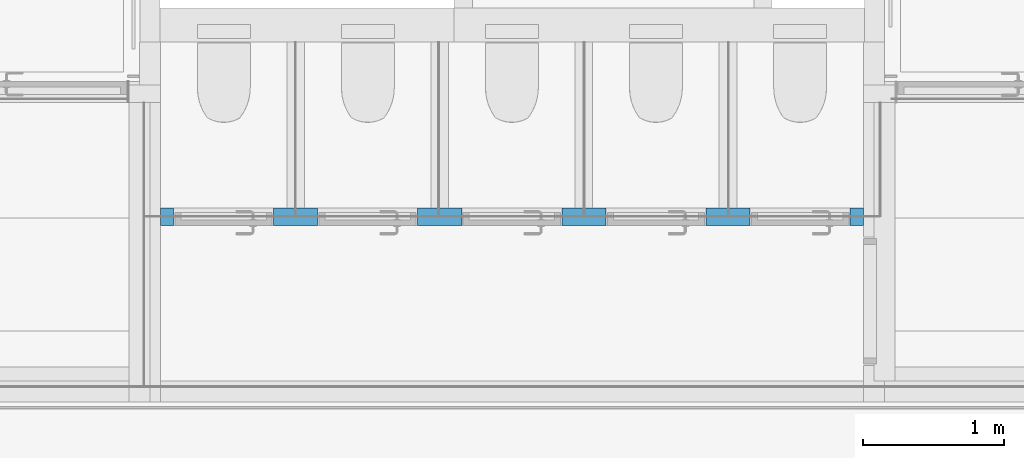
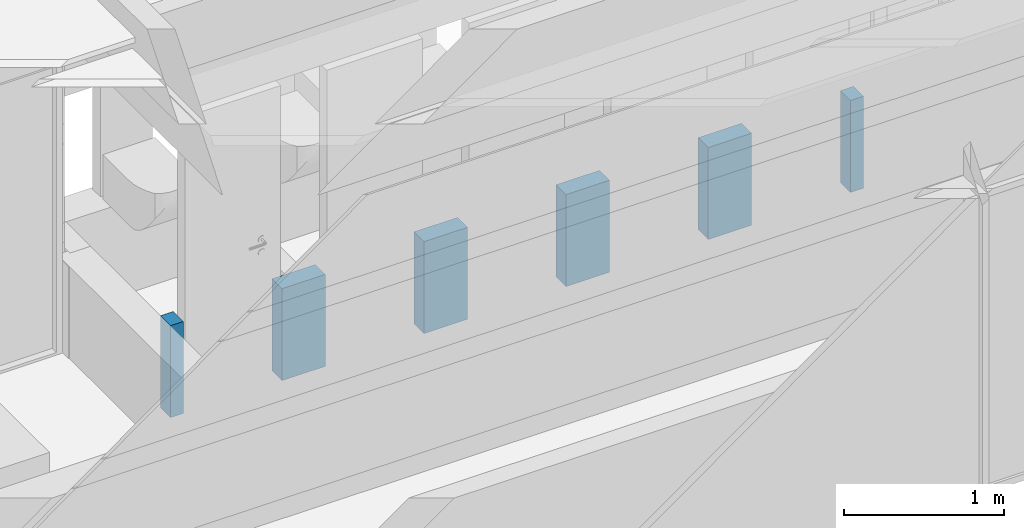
# One storey, part 19 of 26: 1 wall, 5 openings.
"""IFC2X3 building model written with IfcOpenShell, lengths in millimetres."""

from ifc_helpers import new_model, entity, si_unit, converted_unit, derived_unit, direction, frame, frame_2d, origin_with_axes, place, context, subcontext, project, spatial, rectangle, extrude, faceted_brep, material, layer, layer_set, type_object, element, save


model = new_model("IFC2X3")

# Units and contexts
model_context = context("Model", 3, precision=0.01, world=frame((0.0, 4.29681676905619e-09, 0.0)), true_north=direction((4.01073788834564e-13, 1.0)))
plan_context = context("Plan", 3, precision=0.01, world=frame((0.0, 4.29681676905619e-09, 0.0)), true_north=direction((4.01073788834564e-13, 1.0)))
body_context = subcontext(model_context, "Body", "Model", "MODEL_VIEW")
ifc_project = project(units=[converted_unit("PLANEANGLEUNIT", "DEGREE", entity("IfcPositiveLengthMeasure", 0.0174532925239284), si_unit("PLANEANGLEUNIT", "RADIAN"), dimensions=[0, 0, 0, 0, 0, 0, 0]), si_unit("AREAUNIT", "SQUARE_METRE"), si_unit("LENGTHUNIT", "METRE", prefix="MILLI"), si_unit("MASSUNIT", "GRAM", prefix="KILO"), si_unit("POWERUNIT", "WATT"), si_unit("PRESSUREUNIT", "PASCAL", prefix="KILO"), si_unit("FORCEUNIT", "NEWTON", prefix="KILO"), si_unit("ELECTRICVOLTAGEUNIT", "VOLT"), si_unit("ELECTRICCURRENTUNIT", "AMPERE"), si_unit("THERMODYNAMICTEMPERATUREUNIT", "DEGREE_CELSIUS"), si_unit("TIMEUNIT", "SECOND"), si_unit("VOLUMEUNIT", "CUBIC_METRE"), derived_unit("LINEARVELOCITYUNIT", [(si_unit("LENGTHUNIT", "METRE"), 1), (si_unit("TIMEUNIT", "SECOND"), -1)]), derived_unit("VOLUMETRICFLOWRATEUNIT", [(si_unit("VOLUMEUNIT", "CUBIC_METRE"), 1), (si_unit("TIMEUNIT", "SECOND"), -1)]), derived_unit("THERMALTRANSMITTANCEUNIT", [(si_unit("POWERUNIT", "WATT"), 1), (si_unit("THERMODYNAMICTEMPERATUREUNIT", "KELVIN"), -1), (si_unit("AREAUNIT", "SQUARE_METRE"), -1)]), derived_unit("SOUNDPRESSUREUNIT", [(si_unit("PRESSUREUNIT", "PASCAL"), 1)])], contexts=[model_context, plan_context])

# Site, building, storey
site_placement = place(None, origin_with_axes())
site = spatial("IfcSite", under=ifc_project, at=site_placement, Name="ENGM", CompositionType="ELEMENT")
building_placement = place(site_placement, origin_with_axes())
building = spatial("IfcBuilding", under=site, at=building_placement, Name="TG", CompositionType="ELEMENT")
storey_placement = place(building_placement, frame((0.0, 0.0, 210200.0), z_axis=(0.0, 0.0, 1.0), x_axis=(1.0, 0.0, 0.0)))
storey = spatial("IfcBuildingStorey", under=building, at=storey_placement, Name="Nivå F - 0,7 m", CompositionType="ELEMENT", Elevation=210200.0)

# Wall, openings
ifc_material_1 = material(Name="Plate - Gips")
ifc_layer_1 = layer(ifc_material_1, 12.5)
ifc_material_2 = material(Name="_NSW Stålstender, uisolert")
ifc_layer_2 = layer(ifc_material_2, 100.0)
ifc_layer_3 = layer(ifc_material_1, 12.5)
ifc_layer_set = layer_set([ifc_layer_1, ifc_layer_2, ifc_layer_3], Name="Basic Wall:A241 - Eksisterende - GRVR-20")
wall_type = type_object("IfcWallType", Name="Basic Wall:A241 - Eksisterende - GRVR-20", PredefinedType="STANDARD", material=ifc_layer_set)
wall_placement = place(storey_placement, frame((324006.5, 461238.962500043, 0.0), z_axis=(0.0, 0.0, 1.0), x_axis=(1.0, 0.0, 0.0)))
wall = element("IfcWall", 1, at=wall_placement, inside=storey, type_object=wall_type, Name="Basic Wall:A241 - Eksisterende - GRVR-20", ObjectType="Basic Wall:A241 - Eksisterende - GRVR-20", context=body_context, shape_type="Brep", body=[
    faceted_brep([(0.0, -62.4999999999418, 0.0), (92.0, -62.5, 0.0), (92.0, -62.5, 700.0), (0.0, -62.4999999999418, 700.0), (0.0, 62.5, 0.0), (92.0, 62.4999999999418, 0.0), (0.0, 62.5, 700.0), (92.0, 62.5000000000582, 700.0)], [[[0, 1, 2, 3]], [[1, 0, 4, 5]], [[4, 0, 3, 6]], [[1, 5, 7, 2]], [[3, 2, 7, 6]], [[5, 4, 6, 7]]]),
    faceted_brep([(4987.0, 62.5000000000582, 0.0), (4893.0, 62.5, 0.0), (4893.0, 62.5, 700.0), (4987.0, 62.5000000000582, 700.0), (4987.0, -62.4999999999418, 0.0), (4987.0, -62.4999999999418, 700.0), (4893.0, -62.5, 0.0), (4893.0, -62.4999999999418, 700.0)], [[[0, 1, 2, 3]], [[4, 0, 3, 5]], [[1, 6, 7, 2]], [[7, 5, 3, 2]], [[4, 6, 1, 0]], [[6, 4, 5, 7]]]),
    faceted_brep([(4183.0, -62.4999999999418, 0.0), (4183.0, 62.5, 0.0), (4183.0, 62.5000000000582, 700.0), (4183.0, -62.5, 700.0), (3870.0, 62.5, 0.0), (3870.0, -62.5, 0.0), (3870.0, -62.4999999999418, 700.0), (3870.0, 62.5, 700.0), (3964.0, 62.5, 0.0), (4089.0, 62.5, 0.0)], [[[0, 1, 2, 3]], [[4, 5, 6, 7]], [[6, 3, 2, 7]], [[0, 5, 4, 8, 9, 1]], [[1, 9, 8, 4, 7, 2]], [[5, 0, 3, 6]]]),
    faceted_brep([(3160.0, -62.5, 0.0), (3160.0, 62.5, 0.0), (3160.0, 62.5000000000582, 700.0), (3160.0, -62.5, 700.0), (2847.0, 62.5, 0.0), (2847.0, -62.5, 0.0), (2847.0, -62.4999999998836, 700.0), (2847.0, 62.5, 700.0), (2941.0, 62.5, 0.0), (3066.0, 62.5, 0.0)], [[[0, 1, 2, 3]], [[4, 5, 6, 7]], [[6, 3, 2, 7]], [[0, 5, 4, 8, 9, 1]], [[1, 9, 8, 4, 7, 2]], [[5, 0, 3, 6]]]),
    faceted_brep([(1114.0, -62.5, 0.0), (1114.0, 62.5, 0.0), (1114.0, 62.5000000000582, 700.0), (1114.0, -62.5, 700.0), (802.0, 62.4999999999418, 0.0), (802.0, -62.4999999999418, 0.0), (802.0, -62.4999999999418, 700.0), (802.0, 62.5, 700.0), (897.0, 62.5, 0.0), (1022.0, 62.5, 0.0)], [[[0, 1, 2, 3]], [[4, 5, 6, 7]], [[6, 3, 2, 7]], [[0, 5, 4, 8, 9, 1]], [[1, 9, 8, 4, 7, 2]], [[5, 0, 3, 6]]]),
    faceted_brep([(1824.0, 62.5, 0.0), (1824.0, -62.4999999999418, 0.0), (1824.0, -62.4999999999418, 700.0), (1824.0, 62.5, 700.0), (2137.0, -62.5, 0.0), (2137.0, 62.5, 0.0), (2137.0, 62.5000000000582, 700.0), (2137.0, -62.5, 700.0), (1919.0, 62.5, 0.0), (2044.0, 62.5, 0.0)], [[[0, 1, 2, 3]], [[4, 5, 6, 7]], [[2, 7, 6, 3]], [[4, 1, 0, 8, 9, 5]], [[5, 9, 8, 0, 3, 6]], [[1, 4, 7, 2]]]),
])
opening_1_placement = place(wall_placement, frame((4893.0, 62.4999999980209, 0.0), z_axis=(0.0, 0.0, 1.0), x_axis=(1.0, 0.0, 0.0)))
element("IfcOpeningElement", 2, at=opening_1_placement, cuts=wall, Name="A20 - Slagdør - Enkel:A243 - DI_LTO - 0690 x 2240 mm:1", ObjectType="Opening", context=body_context, shape_type="SweptSolid", body=[
    extrude(rectangle(XDim=2259.99999999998, YDim=710.000000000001, at=frame_2d((1129.99999999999, 355.000000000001), x_axis=(1.0, 0.0))), frame((0.0, 0.0, 0.0), z_axis=(0.0, -1.0, 0.0), x_axis=(0.0, 0.0, 1.0)), (0.0, 0.0, 1.0), 125.0),
])
opening_2_placement = place(wall_placement, frame((3870.0, 62.4999999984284, 0.0), z_axis=(0.0, 0.0, 1.0), x_axis=(1.0, 0.0, 0.0)))
element("IfcOpeningElement", 3, at=opening_2_placement, cuts=wall, Name="A20 - Slagdør - Enkel:A243 - DI_LTO - 0690 x 2240 mm:1", ObjectType="Opening", context=body_context, shape_type="SweptSolid", body=[
    extrude(rectangle(XDim=2259.99999999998, YDim=710.000000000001, at=frame_2d((1129.99999999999, 355.000000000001), x_axis=(1.0, 0.0))), frame((0.0, 0.0, 0.0), z_axis=(0.0, -1.0, 0.0), x_axis=(0.0, 0.0, 1.0)), (0.0, 0.0, 1.0), 125.0),
])
opening_3_placement = place(wall_placement, frame((2847.0, 62.4999999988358, 0.0), z_axis=(0.0, 0.0, 1.0), x_axis=(1.0, 0.0, 0.0)))
element("IfcOpeningElement", 4, at=opening_3_placement, cuts=wall, Name="A20 - Slagdør - Enkel:A243 - DI_LTO - 0690 x 2240 mm:1", ObjectType="Opening", context=body_context, shape_type="SweptSolid", body=[
    extrude(rectangle(XDim=2259.99999999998, YDim=710.000000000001, at=frame_2d((1129.99999999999, 355.000000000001), x_axis=(1.0, 0.0))), frame((0.0, 0.0, 0.0), z_axis=(0.0, -1.0, 0.0), x_axis=(0.0, 0.0, 1.0)), (0.0, 0.0, 1.0), 125.0),
])
opening_4_placement = place(wall_placement, frame((1824.0, 62.4999999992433, 0.0), z_axis=(0.0, 0.0, 1.0), x_axis=(1.0, 0.0, 0.0)))
element("IfcOpeningElement", 5, at=opening_4_placement, cuts=wall, Name="A20 - Slagdør - Enkel:A243 - DI_LTO - 0690 x 2240 mm:1", ObjectType="Opening", context=body_context, shape_type="SweptSolid", body=[
    extrude(rectangle(XDim=2259.99999999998, YDim=710.000000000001, at=frame_2d((1129.99999999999, 355.000000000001), x_axis=(1.0, 0.0))), frame((0.0, 0.0, 0.0), z_axis=(0.0, -1.0, 0.0), x_axis=(0.0, 0.0, 1.0)), (0.0, 0.0, 1.0), 125.0),
])
opening_5_placement = place(wall_placement, frame((802.0, 62.4999999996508, 0.0), z_axis=(0.0, 0.0, 1.0), x_axis=(1.0, 0.0, 0.0)))
element("IfcOpeningElement", 6, at=opening_5_placement, cuts=wall, Name="A20 - Slagdør - Enkel:A243 - DI_LTO - 0690 x 2240 mm:1", ObjectType="Opening", context=body_context, shape_type="SweptSolid", body=[
    extrude(rectangle(XDim=2259.99999999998, YDim=710.000000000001, at=frame_2d((1129.99999999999, 355.000000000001), x_axis=(1.0, 0.0))), frame((0.0, 0.0, 0.0), z_axis=(0.0, -1.0, 0.0), x_axis=(0.0, 0.0, 1.0)), (0.0, 0.0, 1.0), 125.0),
])

save(model, "model.ifc")
